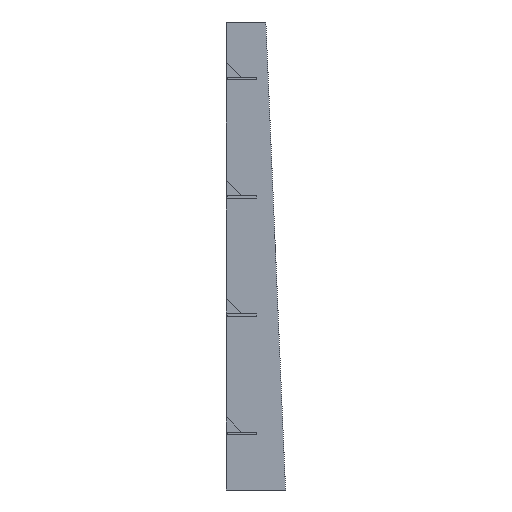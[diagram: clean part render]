
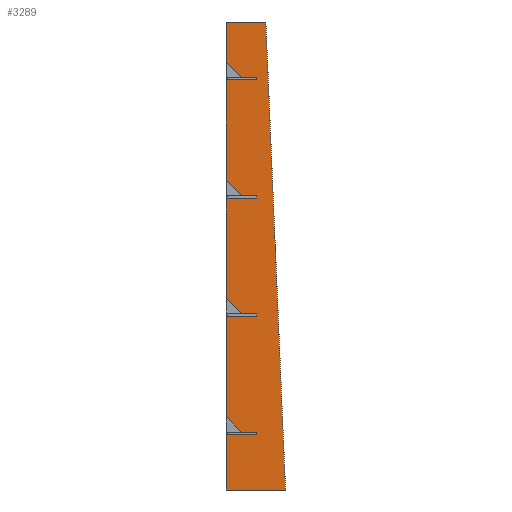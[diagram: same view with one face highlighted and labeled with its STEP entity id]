
A CAD part, left-side view. The second image highlights one B-rep face of the part: STEP entity #3289.
In plain terms, the highlighted planar face has unit normal (-1, 0, 0) as drawn and (0, 0, 1) by its records, which use the part's own axes.
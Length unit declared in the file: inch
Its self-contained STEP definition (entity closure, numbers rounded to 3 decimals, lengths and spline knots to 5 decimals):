
#213=FACE_OUTER_BOUND('',#377,.T.);
#377=EDGE_LOOP('',(#2771,#2772,#2773,#2774,#2775,#2776,#2777,#2778,#2779,
#2780,#2781,#2782,#2783,#2784,#2785,#2786,#2787,#2788,#2789,#2790,#2791,
#2792,#2793,#2794,#2795,#2796,#2797,#2798,#2799,#2800,#2801,#2802));
#722=LINE('',#5007,#1178);
#724=LINE('',#5012,#1180);
#728=LINE('',#5021,#1184);
#732=LINE('',#5028,#1188);
#735=LINE('',#5034,#1191);
#738=LINE('',#5042,#1194);
#742=LINE('',#5049,#1198);
#744=LINE('',#5052,#1200);
#747=LINE('',#5060,#1203);
#751=LINE('',#5067,#1207);
#754=LINE('',#5073,#1210);
#757=LINE('',#5081,#1213);
#761=LINE('',#5088,#1217);
#763=LINE('',#5091,#1219);
#766=LINE('',#5099,#1222);
#770=LINE('',#5106,#1226);
#773=LINE('',#5112,#1229);
#776=LINE('',#5120,#1232);
#780=LINE('',#5127,#1236);
#782=LINE('',#5130,#1238);
#783=LINE('',#5132,#1239);
#784=LINE('',#5133,#1240);
#785=LINE('',#5134,#1241);
#786=LINE('',#5136,#1242);
#787=LINE('',#5138,#1243);
#788=LINE('',#5140,#1244);
#789=LINE('',#5142,#1245);
#790=LINE('',#5144,#1246);
#791=LINE('',#5146,#1247);
#792=LINE('',#5148,#1248);
#793=LINE('',#5150,#1249);
#794=LINE('',#5151,#1250);
#1178=VECTOR('',#4087,0.3937);
#1180=VECTOR('',#4091,0.3937);
#1184=VECTOR('',#4097,0.3937);
#1188=VECTOR('',#4103,0.3937);
#1191=VECTOR('',#4108,0.3937);
#1194=VECTOR('',#4113,0.3937);
#1198=VECTOR('',#4119,0.3937);
#1200=VECTOR('',#4123,0.3937);
#1203=VECTOR('',#4128,0.3937);
#1207=VECTOR('',#4134,0.3937);
#1210=VECTOR('',#4139,0.3937);
#1213=VECTOR('',#4144,0.3937);
#1217=VECTOR('',#4150,0.3937);
#1219=VECTOR('',#4154,0.3937);
#1222=VECTOR('',#4159,0.3937);
#1226=VECTOR('',#4165,0.3937);
#1229=VECTOR('',#4170,0.3937);
#1232=VECTOR('',#4175,0.3937);
#1236=VECTOR('',#4181,0.3937);
#1238=VECTOR('',#4185,0.3937);
#1239=VECTOR('',#4188,0.3937);
#1240=VECTOR('',#4189,0.3937);
#1241=VECTOR('',#4190,0.3937);
#1242=VECTOR('',#4191,0.3937);
#1243=VECTOR('',#4192,0.3937);
#1244=VECTOR('',#4193,0.3937);
#1245=VECTOR('',#4194,0.3937);
#1246=VECTOR('',#4195,0.3937);
#1247=VECTOR('',#4196,0.3937);
#1248=VECTOR('',#4197,0.3937);
#1249=VECTOR('',#4198,0.3937);
#1250=VECTOR('',#4199,0.3937);
#1531=VERTEX_POINT('',#5000);
#1534=VERTEX_POINT('',#5005);
#1536=VERTEX_POINT('',#5011);
#1539=VERTEX_POINT('',#5018);
#1540=VERTEX_POINT('',#5020);
#1542=VERTEX_POINT('',#5026);
#1544=VERTEX_POINT('',#5032);
#1547=VERTEX_POINT('',#5039);
#1548=VERTEX_POINT('',#5041);
#1550=VERTEX_POINT('',#5047);
#1553=VERTEX_POINT('',#5057);
#1554=VERTEX_POINT('',#5059);
#1556=VERTEX_POINT('',#5065);
#1558=VERTEX_POINT('',#5071);
#1561=VERTEX_POINT('',#5078);
#1562=VERTEX_POINT('',#5080);
#1564=VERTEX_POINT('',#5086);
#1567=VERTEX_POINT('',#5096);
#1568=VERTEX_POINT('',#5098);
#1570=VERTEX_POINT('',#5104);
#1572=VERTEX_POINT('',#5110);
#1575=VERTEX_POINT('',#5117);
#1576=VERTEX_POINT('',#5119);
#1578=VERTEX_POINT('',#5125);
#1579=VERTEX_POINT('',#5135);
#1580=VERTEX_POINT('',#5137);
#1581=VERTEX_POINT('',#5139);
#1582=VERTEX_POINT('',#5141);
#1583=VERTEX_POINT('',#5143);
#1584=VERTEX_POINT('',#5145);
#1585=VERTEX_POINT('',#5147);
#1586=VERTEX_POINT('',#5149);
#1938=EDGE_CURVE('',#1531,#1534,#722,.T.);
#1940=EDGE_CURVE('',#1536,#1531,#724,.T.);
#1944=EDGE_CURVE('',#1540,#1539,#728,.T.);
#1948=EDGE_CURVE('',#1539,#1542,#732,.T.);
#1951=EDGE_CURVE('',#1542,#1544,#735,.T.);
#1954=EDGE_CURVE('',#1548,#1547,#738,.T.);
#1958=EDGE_CURVE('',#1547,#1550,#742,.T.);
#1960=EDGE_CURVE('',#1550,#1540,#744,.T.);
#1963=EDGE_CURVE('',#1554,#1553,#747,.T.);
#1967=EDGE_CURVE('',#1553,#1556,#751,.T.);
#1970=EDGE_CURVE('',#1556,#1558,#754,.T.);
#1973=EDGE_CURVE('',#1562,#1561,#757,.T.);
#1977=EDGE_CURVE('',#1561,#1564,#761,.T.);
#1979=EDGE_CURVE('',#1564,#1554,#763,.T.);
#1982=EDGE_CURVE('',#1568,#1567,#766,.T.);
#1986=EDGE_CURVE('',#1567,#1570,#770,.T.);
#1989=EDGE_CURVE('',#1570,#1572,#773,.T.);
#1992=EDGE_CURVE('',#1576,#1575,#776,.T.);
#1996=EDGE_CURVE('',#1575,#1578,#780,.T.);
#1998=EDGE_CURVE('',#1578,#1568,#782,.T.);
#1999=EDGE_CURVE('',#1534,#1548,#783,.T.);
#2000=EDGE_CURVE('',#1544,#1562,#784,.T.);
#2001=EDGE_CURVE('',#1558,#1576,#785,.T.);
#2002=EDGE_CURVE('',#1572,#1579,#786,.T.);
#2003=EDGE_CURVE('',#1579,#1580,#787,.T.);
#2004=EDGE_CURVE('',#1580,#1581,#788,.T.);
#2005=EDGE_CURVE('',#1581,#1582,#789,.T.);
#2006=EDGE_CURVE('',#1582,#1583,#790,.T.);
#2007=EDGE_CURVE('',#1583,#1584,#791,.T.);
#2008=EDGE_CURVE('',#1584,#1585,#792,.T.);
#2009=EDGE_CURVE('',#1585,#1586,#793,.T.);
#2010=EDGE_CURVE('',#1586,#1536,#794,.T.);
#2771=ORIENTED_EDGE('',*,*,#1940,.T.);
#2772=ORIENTED_EDGE('',*,*,#1938,.T.);
#2773=ORIENTED_EDGE('',*,*,#1999,.T.);
#2774=ORIENTED_EDGE('',*,*,#1954,.T.);
#2775=ORIENTED_EDGE('',*,*,#1958,.T.);
#2776=ORIENTED_EDGE('',*,*,#1960,.T.);
#2777=ORIENTED_EDGE('',*,*,#1944,.T.);
#2778=ORIENTED_EDGE('',*,*,#1948,.T.);
#2779=ORIENTED_EDGE('',*,*,#1951,.T.);
#2780=ORIENTED_EDGE('',*,*,#2000,.T.);
#2781=ORIENTED_EDGE('',*,*,#1973,.T.);
#2782=ORIENTED_EDGE('',*,*,#1977,.T.);
#2783=ORIENTED_EDGE('',*,*,#1979,.T.);
#2784=ORIENTED_EDGE('',*,*,#1963,.T.);
#2785=ORIENTED_EDGE('',*,*,#1967,.T.);
#2786=ORIENTED_EDGE('',*,*,#1970,.T.);
#2787=ORIENTED_EDGE('',*,*,#2001,.T.);
#2788=ORIENTED_EDGE('',*,*,#1992,.T.);
#2789=ORIENTED_EDGE('',*,*,#1996,.T.);
#2790=ORIENTED_EDGE('',*,*,#1998,.T.);
#2791=ORIENTED_EDGE('',*,*,#1982,.T.);
#2792=ORIENTED_EDGE('',*,*,#1986,.T.);
#2793=ORIENTED_EDGE('',*,*,#1989,.T.);
#2794=ORIENTED_EDGE('',*,*,#2002,.T.);
#2795=ORIENTED_EDGE('',*,*,#2003,.T.);
#2796=ORIENTED_EDGE('',*,*,#2004,.T.);
#2797=ORIENTED_EDGE('',*,*,#2005,.T.);
#2798=ORIENTED_EDGE('',*,*,#2006,.T.);
#2799=ORIENTED_EDGE('',*,*,#2007,.T.);
#2800=ORIENTED_EDGE('',*,*,#2008,.T.);
#2801=ORIENTED_EDGE('',*,*,#2009,.T.);
#2802=ORIENTED_EDGE('',*,*,#2010,.T.);
#3125=PLANE('',#3514);
#3289=ADVANCED_FACE('',(#213),#3125,.T.);
#3514=AXIS2_PLACEMENT_3D('',#5131,#4186,#4187);
#4087=DIRECTION('',(0.,1.,0.));
#4091=DIRECTION('',(0.999,0.042,0.));
#4097=DIRECTION('',(0.,1.,0.));
#4103=DIRECTION('',(1.,0.,0.));
#4108=DIRECTION('',(0.,1.,0.));
#4113=DIRECTION('',(-0.703,-0.711,0.));
#4119=DIRECTION('',(0.,-1.,0.));
#4123=DIRECTION('',(-1.,0.,0.));
#4128=DIRECTION('',(0.,1.,0.));
#4134=DIRECTION('',(1.,0.,0.));
#4139=DIRECTION('',(0.,1.,0.));
#4144=DIRECTION('',(-0.703,-0.711,0.));
#4150=DIRECTION('',(0.,-1.,0.));
#4154=DIRECTION('',(-1.,0.,0.));
#4159=DIRECTION('',(0.,1.,0.));
#4165=DIRECTION('',(1.,0.,0.));
#4170=DIRECTION('',(0.,1.,0.));
#4175=DIRECTION('',(-0.703,-0.711,0.));
#4181=DIRECTION('',(0.,-1.,0.));
#4185=DIRECTION('',(-1.,0.,0.));
#4186=DIRECTION('center_axis',(0.,0.,1.));
#4187=DIRECTION('ref_axis',(1.,0.,0.));
#4188=DIRECTION('',(-1.,0.,0.));
#4189=DIRECTION('',(-1.,0.,0.));
#4190=DIRECTION('',(-1.,0.,0.));
#4191=DIRECTION('',(-1.,0.,0.));
#4192=DIRECTION('',(-0.703,-0.711,0.));
#4193=DIRECTION('',(0.,-1.,0.));
#4194=DIRECTION('',(-1.,0.,0.));
#4195=DIRECTION('',(0.,1.,0.));
#4196=DIRECTION('',(1.,0.,0.));
#4197=DIRECTION('',(0.,1.,0.));
#4198=DIRECTION('',(-1.,0.,0.));
#4199=DIRECTION('',(0.,-1.,0.));
#5000=CARTESIAN_POINT('',(95.,2.,0.48));
#5005=CARTESIAN_POINT('',(95.,10.,0.48));
#5007=CARTESIAN_POINT('',(95.,0.,0.48));
#5011=CARTESIAN_POINT('',(0.,-2.,0.48));
#5012=CARTESIAN_POINT('',(71.35508,1.00442,0.48));
#5018=CARTESIAN_POINT('',(83.25,9.375,0.48));
#5020=CARTESIAN_POINT('',(83.25,4.375,0.48));
#5021=CARTESIAN_POINT('',(83.25,7.1875,0.48));
#5026=CARTESIAN_POINT('',(83.495,9.375,0.48));
#5028=CARTESIAN_POINT('',(65.4975,9.375,0.48));
#5032=CARTESIAN_POINT('',(83.495,10.,0.48));
#5034=CARTESIAN_POINT('',(83.495,7.5,0.48));
#5039=CARTESIAN_POINT('',(83.75,6.875,0.48));
#5041=CARTESIAN_POINT('',(86.8409,10.,0.48));
#5042=CARTESIAN_POINT('',(74.31821,-2.66085,0.48));
#5047=CARTESIAN_POINT('',(83.75,4.375,0.48));
#5049=CARTESIAN_POINT('',(83.75,4.6875,0.48));
#5052=CARTESIAN_POINT('',(65.375,4.375,0.48));
#5057=CARTESIAN_POINT('',(59.25,9.375,0.48));
#5059=CARTESIAN_POINT('',(59.25,4.375,0.48));
#5060=CARTESIAN_POINT('',(59.25,7.1875,0.48));
#5065=CARTESIAN_POINT('',(59.495,9.375,0.48));
#5067=CARTESIAN_POINT('',(53.4975,9.375,0.48));
#5071=CARTESIAN_POINT('',(59.495,10.,0.48));
#5073=CARTESIAN_POINT('',(59.495,7.5,0.48));
#5078=CARTESIAN_POINT('',(59.75,6.875,0.48));
#5080=CARTESIAN_POINT('',(62.8409,10.,0.48));
#5081=CARTESIAN_POINT('',(56.25238,3.33879,0.48));
#5086=CARTESIAN_POINT('',(59.75,4.375,0.48));
#5088=CARTESIAN_POINT('',(59.75,4.6875,0.48));
#5091=CARTESIAN_POINT('',(53.375,4.375,0.48));
#5096=CARTESIAN_POINT('',(35.25,9.375,0.48));
#5098=CARTESIAN_POINT('',(35.25,4.375,0.48));
#5099=CARTESIAN_POINT('',(35.25,7.1875,0.48));
#5104=CARTESIAN_POINT('',(35.495,9.375,0.48));
#5106=CARTESIAN_POINT('',(41.4975,9.375,0.48));
#5110=CARTESIAN_POINT('',(35.495,10.,0.48));
#5112=CARTESIAN_POINT('',(35.495,7.5,0.48));
#5117=CARTESIAN_POINT('',(35.75,6.875,0.48));
#5119=CARTESIAN_POINT('',(38.8409,10.,0.48));
#5120=CARTESIAN_POINT('',(38.18655,9.33843,0.48));
#5125=CARTESIAN_POINT('',(35.75,4.375,0.48));
#5127=CARTESIAN_POINT('',(35.75,4.6875,0.48));
#5130=CARTESIAN_POINT('',(41.375,4.375,0.48));
#5131=CARTESIAN_POINT('Origin',(47.5,5.,0.48));
#5132=CARTESIAN_POINT('',(95.,10.,0.48));
#5133=CARTESIAN_POINT('',(95.,10.,0.48));
#5134=CARTESIAN_POINT('',(95.,10.,0.48));
#5135=CARTESIAN_POINT('',(14.8409,10.,0.48));
#5136=CARTESIAN_POINT('',(95.,10.,0.48));
#5137=CARTESIAN_POINT('',(11.75,6.875,0.48));
#5138=CARTESIAN_POINT('',(20.12072,15.33807,0.48));
#5139=CARTESIAN_POINT('',(11.75,4.375,0.48));
#5140=CARTESIAN_POINT('',(11.75,4.6875,0.48));
#5141=CARTESIAN_POINT('',(11.25,4.375,0.48));
#5142=CARTESIAN_POINT('',(29.375,4.375,0.48));
#5143=CARTESIAN_POINT('',(11.25,9.375,0.48));
#5144=CARTESIAN_POINT('',(11.25,7.1875,0.48));
#5145=CARTESIAN_POINT('',(11.495,9.375,0.48));
#5146=CARTESIAN_POINT('',(29.4975,9.375,0.48));
#5147=CARTESIAN_POINT('',(11.495,10.,0.48));
#5148=CARTESIAN_POINT('',(11.495,7.5,0.48));
#5149=CARTESIAN_POINT('',(0.,10.,0.48));
#5150=CARTESIAN_POINT('',(95.,10.,0.48));
#5151=CARTESIAN_POINT('',(0.,10.,0.48));
